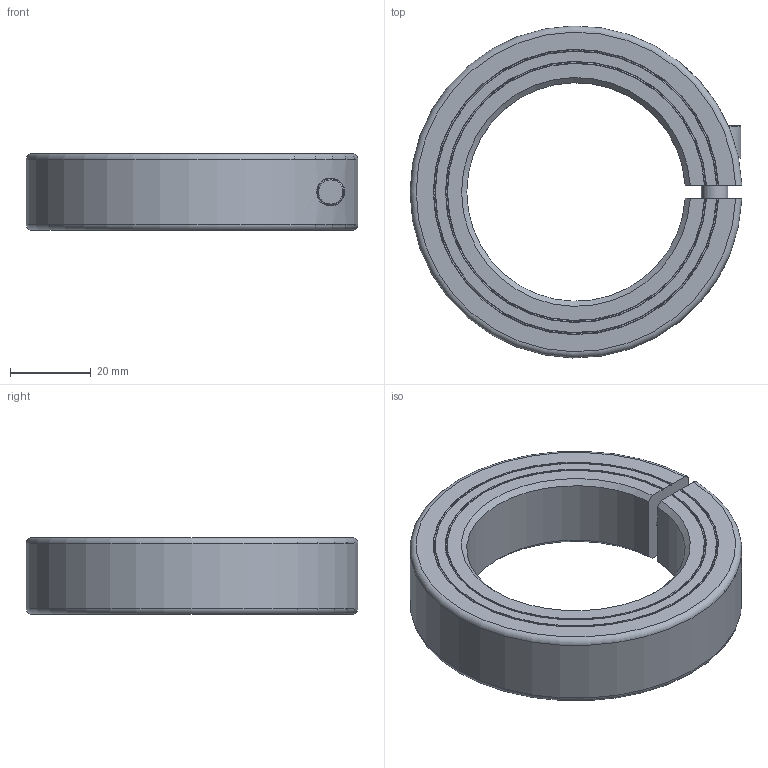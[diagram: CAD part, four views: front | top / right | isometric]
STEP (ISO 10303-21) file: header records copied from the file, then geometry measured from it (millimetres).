
FILE_DESCRIPTION((''),'2;1');
FILE_NAME('MCL-54-F','2016-09-08T',('SYSTEM'),(''),'PRO/ENGINEER BY PARAMETRIC TECHNOLOGY CORPORATION, 2015110','PRO/ENGINEER BY PARAMETRIC TECHNOLOGY CORPORATION, 2015110','');
FILE_SCHEMA(('AUTOMOTIVE_DESIGN { 1 0 10303 214 1 1 1 1 }'));
Length unit declared in the file: inch
Products named in the file (1): MCL-54-F
Bounding box: 81.97 x 81.98 x 19 mm (x, y, z)
Volume: 53909 mm3; surface area: 15782.7 mm2
Topology: 1 solids, 1 shells, 43 faces, 111 edges, 74 vertices
Faces by surface type: plane 18, cylinder 11, cone 10, torus 4
Entity records: 1810 total; most frequent: CARTESIAN_POINT 389, ORIENTED_EDGE 222, DIRECTION 217, EDGE_CURVE 111, AXIS2_PLACEMENT_3D 86, VERTEX_POINT 74, EDGE_LOOP 49, VECTOR 45
